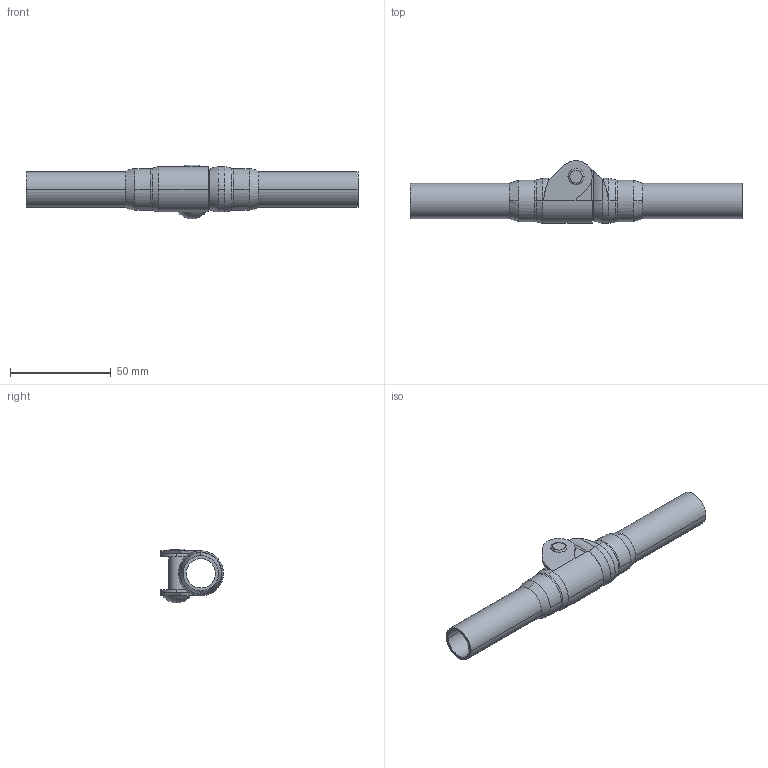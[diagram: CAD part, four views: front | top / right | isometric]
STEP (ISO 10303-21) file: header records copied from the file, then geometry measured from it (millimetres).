
FILE_DESCRIPTION((''),'2;1');
FILE_NAME('6058.03.stp','2015-07-20T11:19:29',(''),(''),'Mechanical Desktop 2006','Mechanical Desktop 2006',', , ');
FILE_SCHEMA(('CONFIG_CONTROL_DESIGN'));
Length unit declared in the file: millimetre
Products named in the file (3): 6058.03; 1; 2
Assembly tree (2 placements, depth 2):
  6058.03
    1
    2
Bounding box: 164.6 x 31.13 x 26.62 mm (x, y, z)
Volume: 8871.9 mm3; surface area: 21871.9 mm2
Topology: 2 solids, 3 shells, 142 faces, 404 edges, 267 vertices
Faces by surface type: cylinder 58, plane 43, bspline 20, torus 19, sphere 2
Entity records: 6185 total; most frequent: CARTESIAN_POINT 2173, DIRECTION 868, ORIENTED_EDGE 800, EDGE_CURVE 400, AXIS2_PLACEMENT_3D 358, VERTEX_POINT 263, CIRCLE 224, EDGE_LOOP 153
